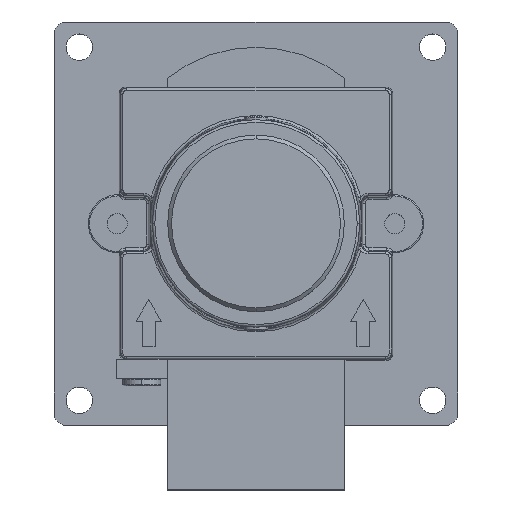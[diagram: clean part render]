
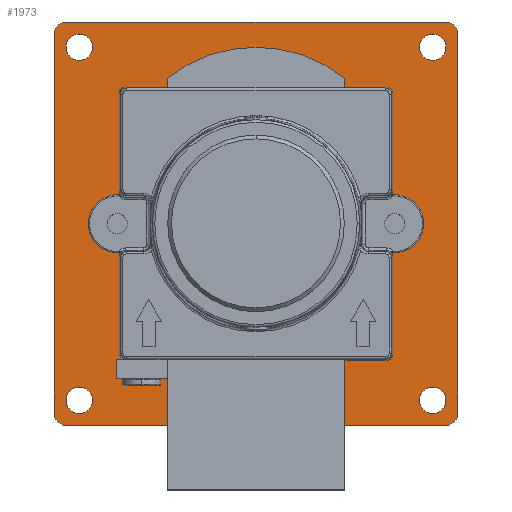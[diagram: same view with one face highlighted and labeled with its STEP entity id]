
A CAD part, top view. The second image highlights one B-rep face of the part: STEP entity #1973.
In plain terms, the highlighted planar face has unit normal (0, 0, 1).
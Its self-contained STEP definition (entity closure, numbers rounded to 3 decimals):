
#213=CARTESIAN_POINT('',(14.,14.,1.6));
#214=DIRECTION('',(0.,0.,-1.));
#215=DIRECTION('',(1.,0.,0.));
#216=AXIS2_PLACEMENT_3D('',#213,#214,#215);
#218=CARTESIAN_POINT('',(14.,14.,1.6));
#219=DIRECTION('',(0.,0.,-1.));
#220=DIRECTION('',(-1.,0.,0.));
#221=AXIS2_PLACEMENT_3D('',#218,#219,#220);
#223=CARTESIAN_POINT('',(-14.,14.,1.6));
#224=DIRECTION('',(0.,0.,-1.));
#225=DIRECTION('',(1.,0.,0.));
#226=AXIS2_PLACEMENT_3D('',#223,#224,#225);
#228=CARTESIAN_POINT('',(-14.,14.,1.6));
#229=DIRECTION('',(0.,0.,-1.));
#230=DIRECTION('',(-1.,0.,0.));
#231=AXIS2_PLACEMENT_3D('',#228,#229,#230);
#233=CARTESIAN_POINT('',(-14.,-14.,1.6));
#234=DIRECTION('',(0.,0.,-1.));
#235=DIRECTION('',(1.,0.,0.));
#236=AXIS2_PLACEMENT_3D('',#233,#234,#235);
#238=CARTESIAN_POINT('',(-14.,-14.,1.6));
#239=DIRECTION('',(0.,0.,-1.));
#240=DIRECTION('',(-1.,0.,0.));
#241=AXIS2_PLACEMENT_3D('',#238,#239,#240);
#243=CARTESIAN_POINT('',(14.,-14.,1.6));
#244=DIRECTION('',(0.,0.,-1.));
#245=DIRECTION('',(1.,0.,0.));
#246=AXIS2_PLACEMENT_3D('',#243,#244,#245);
#248=CARTESIAN_POINT('',(14.,-14.,1.6));
#249=DIRECTION('',(0.,0.,-1.));
#250=DIRECTION('',(-1.,0.,0.));
#251=AXIS2_PLACEMENT_3D('',#248,#249,#250);
#253=DIRECTION('',(0.,-1.,0.));
#254=VECTOR('',#253,8.4);
#255=CARTESIAN_POINT('',(-4.725,4.2,1.6));
#256=LINE('',#255,#254);
#257=DIRECTION('',(1.,0.,0.));
#258=VECTOR('',#257,9.45);
#259=CARTESIAN_POINT('',(-4.725,-4.2,1.6));
#260=LINE('',#259,#258);
#261=DIRECTION('',(0.,1.,0.));
#262=VECTOR('',#261,8.4);
#263=CARTESIAN_POINT('',(4.725,-4.2,1.6));
#264=LINE('',#263,#262);
#265=DIRECTION('',(-1.,0.,0.));
#266=VECTOR('',#265,9.45);
#267=CARTESIAN_POINT('',(4.725,4.2,1.6));
#268=LINE('',#267,#266);
#269=CARTESIAN_POINT('',(-11.,0.,1.6));
#270=DIRECTION('',(0.,0.,1.));
#271=DIRECTION('',(1.,0.,0.));
#272=AXIS2_PLACEMENT_3D('',#269,#270,#271);
#274=CARTESIAN_POINT('',(-11.,0.,1.6));
#275=DIRECTION('',(0.,0.,1.));
#276=DIRECTION('',(-1.,0.,0.));
#277=AXIS2_PLACEMENT_3D('',#274,#275,#276);
#279=CARTESIAN_POINT('',(11.,0.,1.6));
#280=DIRECTION('',(0.,0.,1.));
#281=DIRECTION('',(1.,0.,0.));
#282=AXIS2_PLACEMENT_3D('',#279,#280,#281);
#284=CARTESIAN_POINT('',(11.,0.,1.6));
#285=DIRECTION('',(0.,0.,1.));
#286=DIRECTION('',(-1.,0.,0.));
#287=AXIS2_PLACEMENT_3D('',#284,#285,#286);
#289=CARTESIAN_POINT('',(-15.,-15.,1.6));
#290=DIRECTION('',(0.,0.,1.));
#291=DIRECTION('',(-1.,0.,0.));
#292=AXIS2_PLACEMENT_3D('',#289,#290,#291);
#294=DIRECTION('',(0.,-1.,0.));
#295=VECTOR('',#294,30.);
#296=CARTESIAN_POINT('',(-16.,15.,1.6));
#297=LINE('',#296,#295);
#298=CARTESIAN_POINT('',(-15.,15.,1.6));
#299=DIRECTION('',(0.,0.,1.));
#300=DIRECTION('',(0.,1.,0.));
#301=AXIS2_PLACEMENT_3D('',#298,#299,#300);
#303=DIRECTION('',(-1.,0.,0.));
#304=VECTOR('',#303,30.);
#305=CARTESIAN_POINT('',(15.,16.,1.6));
#306=LINE('',#305,#304);
#307=CARTESIAN_POINT('',(15.,15.,1.6));
#308=DIRECTION('',(0.,0.,1.));
#309=DIRECTION('',(1.,0.,0.));
#310=AXIS2_PLACEMENT_3D('',#307,#308,#309);
#312=DIRECTION('',(0.,1.,0.));
#313=VECTOR('',#312,30.);
#314=CARTESIAN_POINT('',(16.,-15.,1.6));
#315=LINE('',#314,#313);
#316=CARTESIAN_POINT('',(15.,-15.,1.6));
#317=DIRECTION('',(0.,0.,1.));
#318=DIRECTION('',(0.,-1.,0.));
#319=AXIS2_PLACEMENT_3D('',#316,#317,#318);
#321=DIRECTION('',(1.,0.,0.));
#322=VECTOR('',#321,30.);
#323=CARTESIAN_POINT('',(-15.,-16.,1.6));
#324=LINE('',#323,#322);
#1353=CARTESIAN_POINT('',(15.05,14.,1.6));
#1354=CARTESIAN_POINT('',(12.95,14.,1.6));
#1355=VERTEX_POINT('',#1353);
#1356=VERTEX_POINT('',#1354);
#1357=CARTESIAN_POINT('',(-12.95,14.,1.6));
#1358=CARTESIAN_POINT('',(-15.05,14.,1.6));
#1359=VERTEX_POINT('',#1357);
#1360=VERTEX_POINT('',#1358);
#1361=CARTESIAN_POINT('',(-12.95,-14.,1.6));
#1362=CARTESIAN_POINT('',(-15.05,-14.,1.6));
#1363=VERTEX_POINT('',#1361);
#1364=VERTEX_POINT('',#1362);
#1365=CARTESIAN_POINT('',(15.05,-14.,1.6));
#1366=CARTESIAN_POINT('',(12.95,-14.,1.6));
#1367=VERTEX_POINT('',#1365);
#1368=VERTEX_POINT('',#1366);
#1377=CARTESIAN_POINT('',(-4.725,4.2,1.6));
#1378=CARTESIAN_POINT('',(-4.725,-4.2,1.6));
#1379=VERTEX_POINT('',#1377);
#1380=VERTEX_POINT('',#1378);
#1381=CARTESIAN_POINT('',(4.725,-4.2,1.6));
#1382=VERTEX_POINT('',#1381);
#1383=CARTESIAN_POINT('',(4.725,4.2,1.6));
#1384=VERTEX_POINT('',#1383);
#1393=CARTESIAN_POINT('',(-10.,0.,1.6));
#1394=CARTESIAN_POINT('',(-12.,0.,1.6));
#1395=VERTEX_POINT('',#1393);
#1396=VERTEX_POINT('',#1394);
#1397=CARTESIAN_POINT('',(12.,0.,1.6));
#1398=CARTESIAN_POINT('',(10.,0.,1.6));
#1399=VERTEX_POINT('',#1397);
#1400=VERTEX_POINT('',#1398);
#1405=CARTESIAN_POINT('',(-16.,-15.,1.6));
#1406=VERTEX_POINT('',#1405);
#1407=CARTESIAN_POINT('',(-15.,-16.,1.6));
#1408=VERTEX_POINT('',#1407);
#1413=CARTESIAN_POINT('',(-15.,16.,1.6));
#1414=VERTEX_POINT('',#1413);
#1415=CARTESIAN_POINT('',(-16.,15.,1.6));
#1416=VERTEX_POINT('',#1415);
#1421=CARTESIAN_POINT('',(16.,15.,1.6));
#1422=VERTEX_POINT('',#1421);
#1423=CARTESIAN_POINT('',(15.,16.,1.6));
#1424=VERTEX_POINT('',#1423);
#1429=CARTESIAN_POINT('',(15.,-16.,1.6));
#1430=VERTEX_POINT('',#1429);
#1431=CARTESIAN_POINT('',(16.,-15.,1.6));
#1432=VERTEX_POINT('',#1431);
#1906=CARTESIAN_POINT('',(0.,0.,1.6));
#1907=DIRECTION('',(0.,0.,1.));
#1908=DIRECTION('',(1.,0.,0.));
#1909=AXIS2_PLACEMENT_3D('',#1906,#1907,#1908);
#1910=PLANE('',#1909);
#1912=ORIENTED_EDGE('',*,*,#1911,.F.);
#1914=ORIENTED_EDGE('',*,*,#1913,.F.);
#1916=ORIENTED_EDGE('',*,*,#1915,.F.);
#1918=ORIENTED_EDGE('',*,*,#1917,.F.);
#1920=ORIENTED_EDGE('',*,*,#1919,.F.);
#1922=ORIENTED_EDGE('',*,*,#1921,.F.);
#1924=ORIENTED_EDGE('',*,*,#1923,.F.);
#1926=ORIENTED_EDGE('',*,*,#1925,.F.);
#1927=EDGE_LOOP('',(#1912,#1914,#1916,#1918,#1920,#1922,#1924,#1926));
#1928=FACE_OUTER_BOUND('',#1927,.F.);
#1930=ORIENTED_EDGE('',*,*,#1929,.F.);
#1932=ORIENTED_EDGE('',*,*,#1931,.F.);
#1933=EDGE_LOOP('',(#1930,#1932));
#1934=FACE_BOUND('',#1933,.F.);
#1936=ORIENTED_EDGE('',*,*,#1935,.F.);
#1938=ORIENTED_EDGE('',*,*,#1937,.F.);
#1939=EDGE_LOOP('',(#1936,#1938));
#1940=FACE_BOUND('',#1939,.F.);
#1942=ORIENTED_EDGE('',*,*,#1941,.F.);
#1944=ORIENTED_EDGE('',*,*,#1943,.F.);
#1945=EDGE_LOOP('',(#1942,#1944));
#1946=FACE_BOUND('',#1945,.F.);
#1948=ORIENTED_EDGE('',*,*,#1947,.T.);
#1950=ORIENTED_EDGE('',*,*,#1949,.T.);
#1952=ORIENTED_EDGE('',*,*,#1951,.T.);
#1954=ORIENTED_EDGE('',*,*,#1953,.T.);
#1955=EDGE_LOOP('',(#1948,#1950,#1952,#1954));
#1956=FACE_BOUND('',#1955,.F.);
#1958=ORIENTED_EDGE('',*,*,#1957,.T.);
#1960=ORIENTED_EDGE('',*,*,#1959,.T.);
#1961=EDGE_LOOP('',(#1958,#1960));
#1962=FACE_BOUND('',#1961,.F.);
#1964=ORIENTED_EDGE('',*,*,#1963,.T.);
#1966=ORIENTED_EDGE('',*,*,#1965,.T.);
#1967=EDGE_LOOP('',(#1964,#1966));
#1968=FACE_BOUND('',#1967,.F.);
#1969=ORIENTED_EDGE('',*,*,#1886,.F.);
#1970=ORIENTED_EDGE('',*,*,#1900,.F.);
#1971=EDGE_LOOP('',(#1969,#1970));
#1972=FACE_BOUND('',#1971,.F.);
#217=CIRCLE('',#216,1.05);
#222=CIRCLE('',#221,1.05);
#227=CIRCLE('',#226,1.05);
#232=CIRCLE('',#231,1.05);
#237=CIRCLE('',#236,1.05);
#242=CIRCLE('',#241,1.05);
#247=CIRCLE('',#246,1.05);
#252=CIRCLE('',#251,1.05);
#273=CIRCLE('',#272,1.);
#278=CIRCLE('',#277,1.);
#283=CIRCLE('',#282,1.);
#288=CIRCLE('',#287,1.);
#293=CIRCLE('',#292,1.);
#302=CIRCLE('',#301,1.);
#311=CIRCLE('',#310,1.);
#320=CIRCLE('',#319,1.);
#1886=EDGE_CURVE('',#1355,#1356,#217,.T.);
#1900=EDGE_CURVE('',#1356,#1355,#222,.T.);
#1911=EDGE_CURVE('',#1406,#1408,#293,.T.);
#1913=EDGE_CURVE('',#1416,#1406,#297,.T.);
#1915=EDGE_CURVE('',#1414,#1416,#302,.T.);
#1917=EDGE_CURVE('',#1424,#1414,#306,.T.);
#1919=EDGE_CURVE('',#1422,#1424,#311,.T.);
#1921=EDGE_CURVE('',#1432,#1422,#315,.T.);
#1923=EDGE_CURVE('',#1430,#1432,#320,.T.);
#1925=EDGE_CURVE('',#1408,#1430,#324,.T.);
#1929=EDGE_CURVE('',#1359,#1360,#227,.T.);
#1931=EDGE_CURVE('',#1360,#1359,#232,.T.);
#1935=EDGE_CURVE('',#1363,#1364,#237,.T.);
#1937=EDGE_CURVE('',#1364,#1363,#242,.T.);
#1941=EDGE_CURVE('',#1367,#1368,#247,.T.);
#1943=EDGE_CURVE('',#1368,#1367,#252,.T.);
#1947=EDGE_CURVE('',#1379,#1380,#256,.T.);
#1949=EDGE_CURVE('',#1380,#1382,#260,.T.);
#1951=EDGE_CURVE('',#1382,#1384,#264,.T.);
#1953=EDGE_CURVE('',#1384,#1379,#268,.T.);
#1957=EDGE_CURVE('',#1395,#1396,#273,.T.);
#1959=EDGE_CURVE('',#1396,#1395,#278,.T.);
#1963=EDGE_CURVE('',#1399,#1400,#283,.T.);
#1965=EDGE_CURVE('',#1400,#1399,#288,.T.);
#1973=ADVANCED_FACE('',(#1928,#1934,#1940,#1946,#1956,#1962,#1968,#1972),#1910,
.T.);
